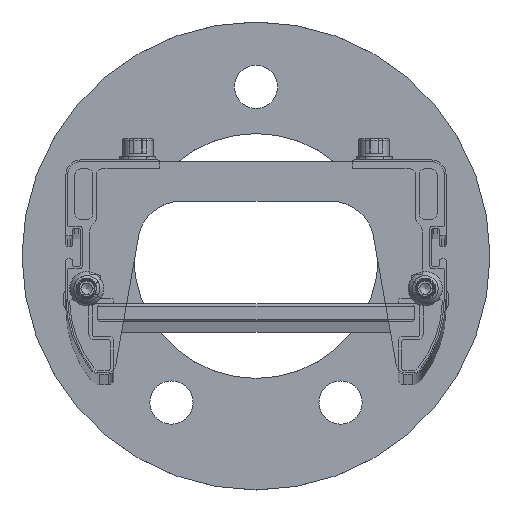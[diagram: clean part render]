
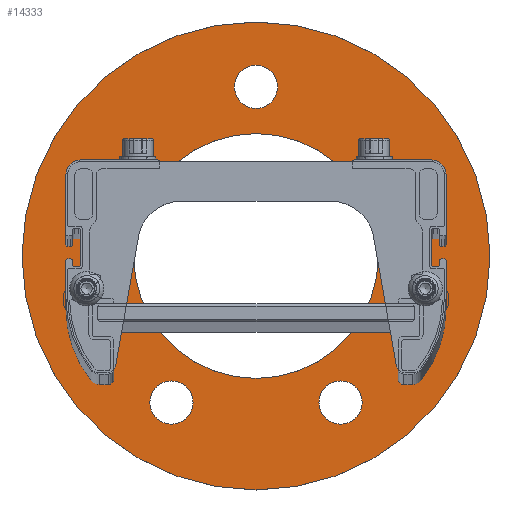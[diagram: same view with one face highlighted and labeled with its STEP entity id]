
A CAD part, top view. The second image highlights one B-rep face of the part: STEP entity #14333.
In plain terms, the highlighted planar face has unit normal (0, 0, 1).
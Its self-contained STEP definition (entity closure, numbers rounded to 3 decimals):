
#7104=FACE_BOUND('',#25302,.T.);
#7105=FACE_BOUND('',#25303,.T.);
#7106=FACE_BOUND('',#25304,.T.);
#7107=FACE_BOUND('',#25305,.T.);
#7108=FACE_BOUND('',#25306,.T.);
#7109=FACE_BOUND('',#25307,.T.);
#7110=FACE_BOUND('',#25308,.T.);
#10366=PLANE('',#101632);
#14333=ADVANCED_FACE('',(#7104,#7105,#7106,#7107,#7108,#7109,#7110),#10366,
 .T.);
#25302=EDGE_LOOP('',(#50490));
#25303=EDGE_LOOP('',(#50491));
#25304=EDGE_LOOP('',(#50492));
#25305=EDGE_LOOP('',(#50493));
#25306=EDGE_LOOP('',(#50494));
#25307=EDGE_LOOP('',(#50495));
#25308=EDGE_LOOP('',(#50496));
#30362=CIRCLE('',#101625,6.);
#30363=CIRCLE('',#101626,6.);
#30364=CIRCLE('',#101627,6.);
#30365=CIRCLE('',#101628,34.);
#30366=CIRCLE('',#101629,3.6);
#30367=CIRCLE('',#101630,3.6);
#30368=CIRCLE('',#101631,65.);
#50490=ORIENTED_EDGE('',*,*,#76590,.F.);
#50491=ORIENTED_EDGE('',*,*,#76591,.F.);
#50492=ORIENTED_EDGE('',*,*,#76592,.F.);
#50493=ORIENTED_EDGE('',*,*,#76593,.T.);
#50494=ORIENTED_EDGE('',*,*,#76594,.T.);
#50495=ORIENTED_EDGE('',*,*,#76595,.T.);
#50496=ORIENTED_EDGE('',*,*,#76596,.F.);
#64587=VERTEX_POINT('',#165636);
#64588=VERTEX_POINT('',#165638);
#64589=VERTEX_POINT('',#165640);
#64590=VERTEX_POINT('',#165642);
#64591=VERTEX_POINT('',#165644);
#64592=VERTEX_POINT('',#165646);
#64593=VERTEX_POINT('',#165648);
#76590=EDGE_CURVE('',#64587,#64587,#30362,.T.);
#76591=EDGE_CURVE('',#64588,#64588,#30363,.T.);
#76592=EDGE_CURVE('',#64589,#64589,#30364,.T.);
#76593=EDGE_CURVE('',#64590,#64590,#30365,.T.);
#76594=EDGE_CURVE('',#64591,#64591,#30366,.T.);
#76595=EDGE_CURVE('',#64592,#64592,#30367,.T.);
#76596=EDGE_CURVE('',#64593,#64593,#30368,.T.);
#101625=AXIS2_PLACEMENT_3D('',#165635,#124685,#124686);
#101626=AXIS2_PLACEMENT_3D('',#165637,#124687,#124688);
#101627=AXIS2_PLACEMENT_3D('',#165639,#124689,#124690);
#101628=AXIS2_PLACEMENT_3D('',#165641,#124691,#124692);
#101629=AXIS2_PLACEMENT_3D('',#165643,#124693,#124694);
#101630=AXIS2_PLACEMENT_3D('',#165645,#124695,#124696);
#101631=AXIS2_PLACEMENT_3D('',#165647,#124697,#124698);
#101632=AXIS2_PLACEMENT_3D('',#165649,#124699,#124700);
#124685=DIRECTION('',(0.,0.,1.));
#124686=DIRECTION('',(-1.,0.,0.));
#124687=DIRECTION('',(0.,0.,1.));
#124688=DIRECTION('',(-1.,0.,0.));
#124689=DIRECTION('',(0.,0.,1.));
#124690=DIRECTION('',(-1.,0.,0.));
#124691=DIRECTION('',(0.,0.,-1.));
#124692=DIRECTION('',(-1.,0.,0.));
#124693=DIRECTION('',(0.,0.,-1.));
#124694=DIRECTION('',(1.,0.,0.));
#124695=DIRECTION('',(0.,0.,-1.));
#124696=DIRECTION('',(1.,0.,0.));
#124697=DIRECTION('',(0.,0.,-1.));
#124698=DIRECTION('',(-1.,0.,0.));
#124699=DIRECTION('',(0.,0.,1.));
#124700=DIRECTION('',(-1.,0.,0.));
#165635=CARTESIAN_POINT('',(293.846,-100.913,-285.));
#165636=CARTESIAN_POINT('',(287.846,-100.913,-285.));
#165637=CARTESIAN_POINT('',(317.346,-13.21,-285.));
#165638=CARTESIAN_POINT('',(311.346,-13.21,-285.));
#165639=CARTESIAN_POINT('',(340.846,-100.913,-285.));
#165640=CARTESIAN_POINT('',(334.846,-100.913,-285.));
#165641=CARTESIAN_POINT('',(317.346,-60.21,-285.));
#165642=CARTESIAN_POINT('',(283.346,-60.21,-285.));
#165643=CARTESIAN_POINT('',(364.346,-72.21,-285.));
#165644=CARTESIAN_POINT('',(367.946,-72.21,-285.));
#165645=CARTESIAN_POINT('',(270.346,-72.21,-285.));
#165646=CARTESIAN_POINT('',(273.946,-72.21,-285.));
#165647=CARTESIAN_POINT('',(317.346,-60.21,-285.));
#165648=CARTESIAN_POINT('',(252.346,-60.21,-285.));
#165649=CARTESIAN_POINT('',(252.346,-60.21,-285.));
